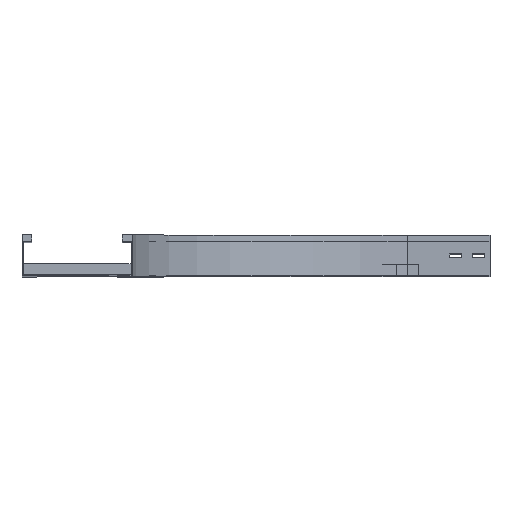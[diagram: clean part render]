
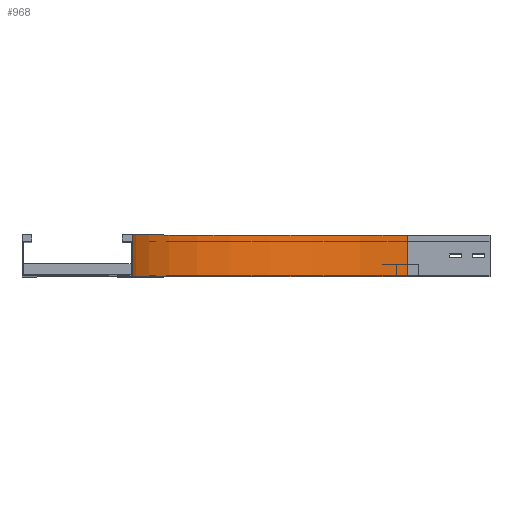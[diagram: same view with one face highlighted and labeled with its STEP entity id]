
A CAD part, top view. The second image highlights one B-rep face of the part: STEP entity #968.
In plain terms, the highlighted cylindrical face has radius 500 mm (diameter 1000 mm), a partial arc.
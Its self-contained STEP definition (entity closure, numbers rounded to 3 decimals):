
#7 = CARTESIAN_POINT ( 'NONE',  ( 0., 75., -150. ) ) ;
#38 = ORIENTED_EDGE ( 'NONE', *, *, #1738, .T. ) ;
#201 = VERTEX_POINT ( 'NONE', #3410 ) ;
#298 = AXIS2_PLACEMENT_3D ( 'NONE', #2545, #3862, #1615 ) ;
#388 = AXIS2_PLACEMENT_3D ( 'NONE', #799, #3395, #3121 ) ;
#434 = EDGE_CURVE ( 'NONE', #3314, #3841, #3022, .T. ) ;
#722 = CARTESIAN_POINT ( 'NONE',  ( 500., 0., -650. ) ) ;
#799 = CARTESIAN_POINT ( 'NONE',  ( 500., 75., -150. ) ) ;
#968 = ADVANCED_FACE ( 'NONE', ( #4178 ), #1553, .F. ) ;
#1079 = CIRCLE ( 'NONE', #388, 500. ) ;
#1100 = ORIENTED_EDGE ( 'NONE', *, *, #434, .F. ) ;
#1484 = EDGE_CURVE ( 'NONE', #201, #1714, #2596, .T. ) ;
#1548 = AXIS2_PLACEMENT_3D ( 'NONE', #2178, #4115, #3880 ) ;
#1553 = CYLINDRICAL_SURFACE ( 'NONE', #1548, 500. ) ;
#1597 = CARTESIAN_POINT ( 'NONE',  ( 500., 75., -650. ) ) ;
#1615 = DIRECTION ( 'NONE',  ( -1., 0., 0. ) ) ;
#1714 = VERTEX_POINT ( 'NONE', #1597 ) ;
#1738 = EDGE_CURVE ( 'NONE', #3314, #201, #2626, .T. ) ;
#2018 = EDGE_LOOP ( 'NONE', ( #2832, #1100, #38, #3918 ) ) ;
#2178 = CARTESIAN_POINT ( 'NONE',  ( 500., 0., -150. ) ) ;
#2309 = DIRECTION ( 'NONE',  ( 0., 1., 0. ) ) ;
#2351 = DIRECTION ( 'NONE',  ( 0., 1., 0. ) ) ;
#2545 = CARTESIAN_POINT ( 'NONE',  ( 500., 0., -150. ) ) ;
#2596 = LINE ( 'NONE', #722, #3805 ) ;
#2626 = CIRCLE ( 'NONE', #298, 500. ) ;
#2699 = CARTESIAN_POINT ( 'NONE',  ( 0., 0., -150. ) ) ;
#2832 = ORIENTED_EDGE ( 'NONE', *, *, #4010, .F. ) ;
#3022 = LINE ( 'NONE', #2699, #3316 ) ;
#3121 = DIRECTION ( 'NONE',  ( -1., 0., 0. ) ) ;
#3272 = CARTESIAN_POINT ( 'NONE',  ( 0., 0., -150. ) ) ;
#3314 = VERTEX_POINT ( 'NONE', #3272 ) ;
#3316 = VECTOR ( 'NONE', #2309, 1000. ) ;
#3395 = DIRECTION ( 'NONE',  ( 0., -1., 0. ) ) ;
#3410 = CARTESIAN_POINT ( 'NONE',  ( 500., 0., -650. ) ) ;
#3805 = VECTOR ( 'NONE', #2351, 1000. ) ;
#3841 = VERTEX_POINT ( 'NONE', #7 ) ;
#3862 = DIRECTION ( 'NONE',  ( 0., -1., 0. ) ) ;
#3880 = DIRECTION ( 'NONE',  ( 0., 0., -1. ) ) ;
#3918 = ORIENTED_EDGE ( 'NONE', *, *, #1484, .T. ) ;
#4010 = EDGE_CURVE ( 'NONE', #3841, #1714, #1079, .T. ) ;
#4115 = DIRECTION ( 'NONE',  ( 0., -1., 0. ) ) ;
#4178 = FACE_OUTER_BOUND ( 'NONE', #2018, .T. ) ;
